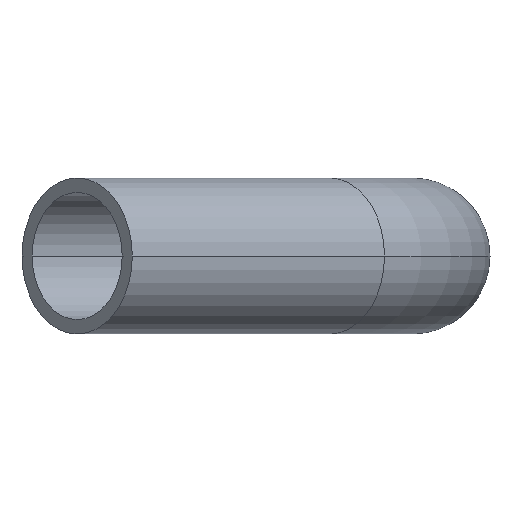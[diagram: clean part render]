
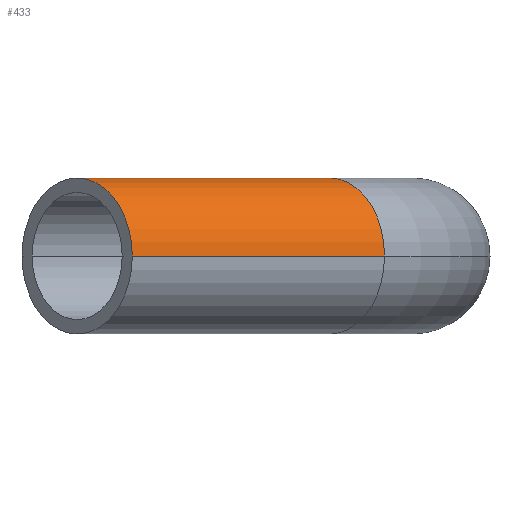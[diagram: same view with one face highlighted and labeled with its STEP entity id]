
A CAD part, left-side view. The second image highlights one B-rep face of the part: STEP entity #433.
In plain terms, the highlighted cylindrical face has radius 55 mm (diameter 110 mm), a partial arc.
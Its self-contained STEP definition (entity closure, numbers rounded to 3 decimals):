
#4 = DIRECTION ( 'NONE',  ( 0., 0., -1. ) ) ;
#5 = DIRECTION ( 'NONE',  ( 0., 0., -1. ) ) ;
#6 = DIRECTION ( 'NONE',  ( 0.707, -0.707, 0. ) ) ;
#7 = CARTESIAN_POINT ( 'NONE',  ( -561.109, 236.109, 0. ) ) ;
#11 = DIRECTION ( 'NONE',  ( -0.707, 0.707, 0. ) ) ;
#16 = CARTESIAN_POINT ( 'NONE',  ( -344.395, 97.177, 0. ) ) ;
#17 = LINE ( 'NONE', #16, #201 ) ;
#18 = LINE ( 'NONE', #19, #207 ) ;
#19 = CARTESIAN_POINT ( 'NONE',  ( -422.177, 19.395, 0. ) ) ;
#33 = DIRECTION ( 'NONE',  ( -0.707, 0.707, 0. ) ) ;
#41 = FACE_OUTER_BOUND ( 'NONE', #334, .T. ) ;
#42 = CYLINDRICAL_SURFACE ( 'NONE', #224, 55. ) ;
#46 = CARTESIAN_POINT ( 'NONE',  ( -383.286, 58.286, 0. ) ) ;
#47 = DIRECTION ( 'NONE',  ( -0.707, -0.707, 0. ) ) ;
#141 = DIRECTION ( 'NONE',  ( 0.707, -0.707, 0. ) ) ;
#142 = CARTESIAN_POINT ( 'NONE',  ( -383.286, 58.286, 0. ) ) ;
#201 = VECTOR ( 'NONE', #11, 1000. ) ;
#202 = CIRCLE ( 'NONE', #205, 55. ) ;
#205 = AXIS2_PLACEMENT_3D ( 'NONE', #142, #141, #5 ) ;
#206 = CIRCLE ( 'NONE', #210, 55. ) ;
#207 = VECTOR ( 'NONE', #396, 1000. ) ;
#210 = AXIS2_PLACEMENT_3D ( 'NONE', #7, #6, #4 ) ;
#224 = AXIS2_PLACEMENT_3D ( 'NONE', #46, #33, #47 ) ;
#297 = CARTESIAN_POINT ( 'NONE',  ( -522.218, 275., 0. ) ) ;
#299 = CARTESIAN_POINT ( 'NONE',  ( -600., 197.218, 0. ) ) ;
#308 = CARTESIAN_POINT ( 'NONE',  ( -344.395, 97.177, 0. ) ) ;
#311 = VERTEX_POINT ( 'NONE', #308 ) ;
#312 = VERTEX_POINT ( 'NONE', #324 ) ;
#324 = CARTESIAN_POINT ( 'NONE',  ( -422.177, 19.395, 0. ) ) ;
#334 = EDGE_LOOP ( 'NONE', ( #363, #364, #365, #366 ) ) ;
#342 = VERTEX_POINT ( 'NONE', #299 ) ;
#343 = VERTEX_POINT ( 'NONE', #297 ) ;
#363 = ORIENTED_EDGE ( 'NONE', *, *, #418, .F. ) ;
#364 = ORIENTED_EDGE ( 'NONE', *, *, #422, .T. ) ;
#365 = ORIENTED_EDGE ( 'NONE', *, *, #423, .T. ) ;
#366 = ORIENTED_EDGE ( 'NONE', *, *, #424, .F. ) ;
#396 = DIRECTION ( 'NONE',  ( -0.707, 0.707, 0. ) ) ;
#418 = EDGE_CURVE ( 'NONE', #311, #312, #202, .T. ) ;
#422 = EDGE_CURVE ( 'NONE', #311, #343, #17, .T. ) ;
#423 = EDGE_CURVE ( 'NONE', #343, #342, #206, .T. ) ;
#424 = EDGE_CURVE ( 'NONE', #312, #342, #18, .T. ) ;
#433 = ADVANCED_FACE ( 'NONE', ( #41 ), #42, .T. ) ;
